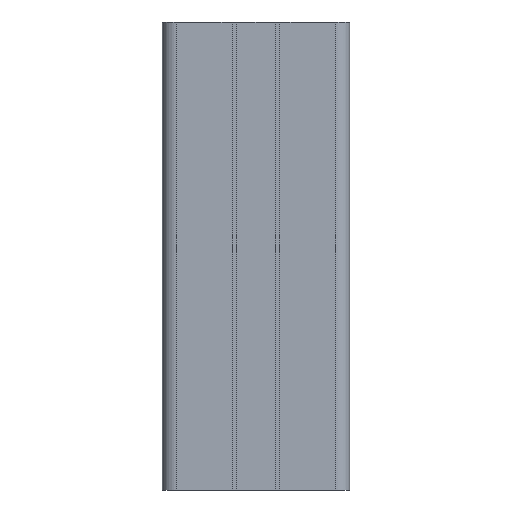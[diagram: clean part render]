
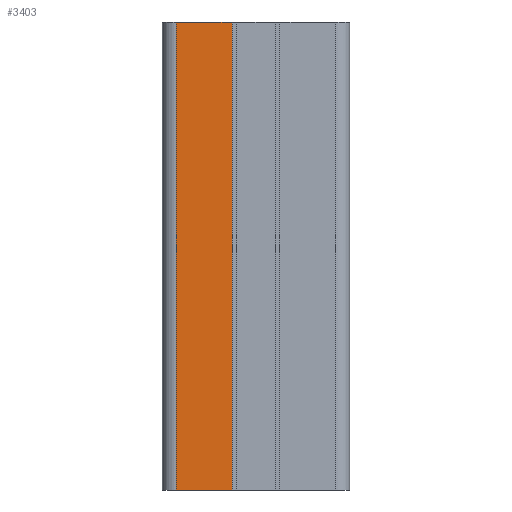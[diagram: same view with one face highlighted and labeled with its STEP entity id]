
A CAD part, front view. The second image highlights one B-rep face of the part: STEP entity #3403.
In plain terms, the highlighted planar face has unit normal (0, -1, 0).
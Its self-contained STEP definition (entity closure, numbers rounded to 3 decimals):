
#41 = LINE ( 'NONE', #4472, #5062 ) ;
#236 = VERTEX_POINT ( 'NONE', #1563 ) ;
#468 = DIRECTION ( 'NONE',  ( 1., 0., 0. ) ) ;
#871 = ORIENTED_EDGE ( 'NONE', *, *, #2634, .T. ) ;
#886 = DIRECTION ( 'NONE',  ( 0., 0., -1. ) ) ;
#943 = EDGE_CURVE ( 'NONE', #236, #2188, #41, .T. ) ;
#1052 = VERTEX_POINT ( 'NONE', #4101 ) ;
#1279 = CARTESIAN_POINT ( 'NONE',  ( -5.1, -20., -100. ) ) ;
#1389 = EDGE_CURVE ( 'NONE', #3440, #236, #1721, .T. ) ;
#1563 = CARTESIAN_POINT ( 'NONE',  ( -17., -20., -100. ) ) ;
#1603 = ORIENTED_EDGE ( 'NONE', *, *, #2646, .F. ) ;
#1700 = DIRECTION ( 'NONE',  ( 0., 0., 1. ) ) ;
#1702 = AXIS2_PLACEMENT_3D ( 'NONE', #4506, #1864, #4520 ) ;
#1709 = VECTOR ( 'NONE', #886, 1000. ) ;
#1721 = LINE ( 'NONE', #3613, #1709 ) ;
#1864 = DIRECTION ( 'NONE',  ( 0., -1., 0. ) ) ;
#2110 = CARTESIAN_POINT ( 'NONE',  ( 20., -20., 0. ) ) ;
#2188 = VERTEX_POINT ( 'NONE', #3645 ) ;
#2437 = ORIENTED_EDGE ( 'NONE', *, *, #943, .T. ) ;
#2578 = VECTOR ( 'NONE', #1700, 1000. ) ;
#2616 = DIRECTION ( 'NONE',  ( 1., 0., 0. ) ) ;
#2634 = EDGE_CURVE ( 'NONE', #2188, #1052, #4669, .T. ) ;
#2646 = EDGE_CURVE ( 'NONE', #3440, #1052, #4299, .T. ) ;
#3341 = VECTOR ( 'NONE', #468, 1000. ) ;
#3399 = PLANE ( 'NONE',  #1702 ) ;
#3403 = ADVANCED_FACE ( 'NONE', ( #4287 ), #3399, .T. ) ;
#3440 = VERTEX_POINT ( 'NONE', #4534 ) ;
#3613 = CARTESIAN_POINT ( 'NONE',  ( -17., -20., -100. ) ) ;
#3645 = CARTESIAN_POINT ( 'NONE',  ( -5.1, -20., -100. ) ) ;
#3763 = EDGE_LOOP ( 'NONE', ( #871, #1603, #3875, #2437 ) ) ;
#3875 = ORIENTED_EDGE ( 'NONE', *, *, #1389, .T. ) ;
#4101 = CARTESIAN_POINT ( 'NONE',  ( -5.1, -20., 0. ) ) ;
#4287 = FACE_OUTER_BOUND ( 'NONE', #3763, .T. ) ;
#4299 = LINE ( 'NONE', #2110, #3341 ) ;
#4472 = CARTESIAN_POINT ( 'NONE',  ( 20., -20., -100. ) ) ;
#4506 = CARTESIAN_POINT ( 'NONE',  ( 20., -20., -100. ) ) ;
#4520 = DIRECTION ( 'NONE',  ( 1., 0., 0. ) ) ;
#4534 = CARTESIAN_POINT ( 'NONE',  ( -17., -20., 0. ) ) ;
#4669 = LINE ( 'NONE', #1279, #2578 ) ;
#5062 = VECTOR ( 'NONE', #2616, 1000. ) ;
